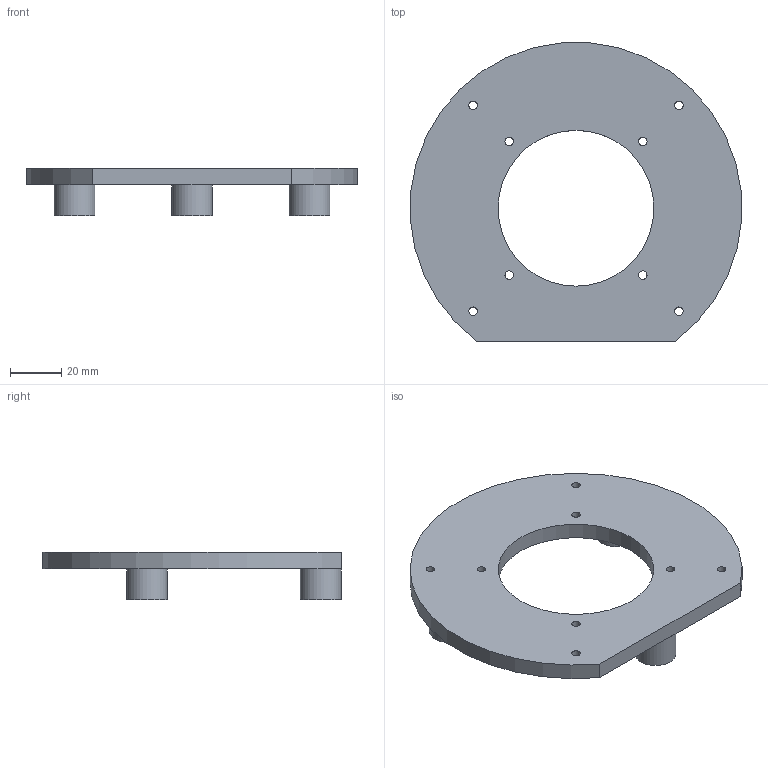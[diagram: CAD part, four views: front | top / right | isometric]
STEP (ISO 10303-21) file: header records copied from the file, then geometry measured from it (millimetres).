
FILE_DESCRIPTION(('Open CASCADE Model'),'2;1');
FILE_NAME('Open CASCADE Shape Model','2026-10-20T19:06:08',('Author'),( 'Open CASCADE'),'Open CASCADE STEP processor 7.9','Open CASCADE 7.9' ,'Unknown');
FILE_SCHEMA(('AUTOMOTIVE_DESIGN { 1 0 10303 214 1 1 1 1 }'));
Length unit declared in the file: millimetre
Products named in the file (1): Open CASCADE STEP translator 7.9 1
Bounding box: 129.72 x 116.76 x 18.5 mm (x, y, z)
Volume: 69117.3 mm3; surface area: 25602.8 mm2
Topology: 1 solids, 1 shells, 55 faces, 130 edges, 87 vertices
Faces by surface type: plane 38, cylinder 17
Full cylindrical faces by diameter (mm): 3.3 x8, 6.2 x4, 16 x3, 61 x1
Entity records: 3294 total; most frequent: CARTESIAN_POINT 722, DIRECTION 450, ORIENTED_EDGE 256, PCURVE 256, DEFINITIONAL_REPRESENTATION 256, LINE 256, VECTOR 256, EDGE_CURVE 128
